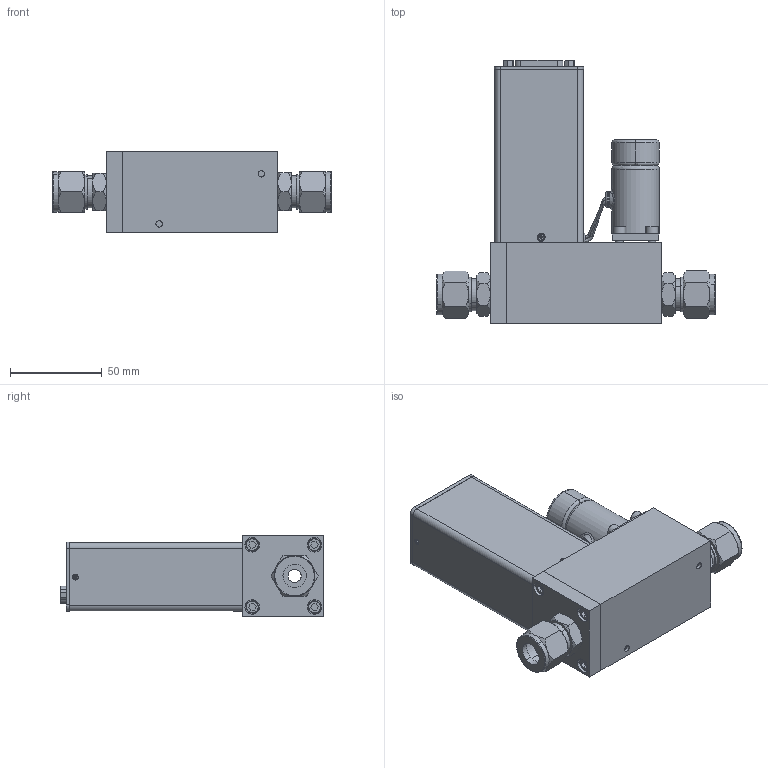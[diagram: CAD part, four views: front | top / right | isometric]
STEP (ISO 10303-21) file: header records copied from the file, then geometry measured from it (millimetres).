
FILE_DESCRIPTION (( 'STEP AP203' ), '1' );
FILE_NAME ('SLA5851-S-1P-1-C-REVB.STEP', '2021-11-19T15:27:56', ( '' ), ( '' ), 'SwSTEP 2.0', 'SolidWorks 2020', '' );
FILE_SCHEMA (( 'CONFIG_CONTROL_DESIGN' ));
Length unit declared in the file: inch
Products named in the file (1): SLA5851-S-1P-1-C-REVB
Bounding box: 151.97 x 143.86 x 44.31 mm (x, y, z)
Volume: 91504.9 mm3; surface area: 107079.8 mm2
Topology: 34 solids, 34 shells, 1379 faces, 3559 edges, 2290 vertices
Faces by surface type: plane 672, cylinder 418, cone 206, bspline 83
Entity records: 46898 total; most frequent: CARTESIAN_POINT 12707, DIRECTION 7141, ORIENTED_EDGE 7094, EDGE_CURVE 3547, AXIS2_PLACEMENT_3D 2551, VERTEX_POINT 2290, VECTOR 2039, LINE 2039
